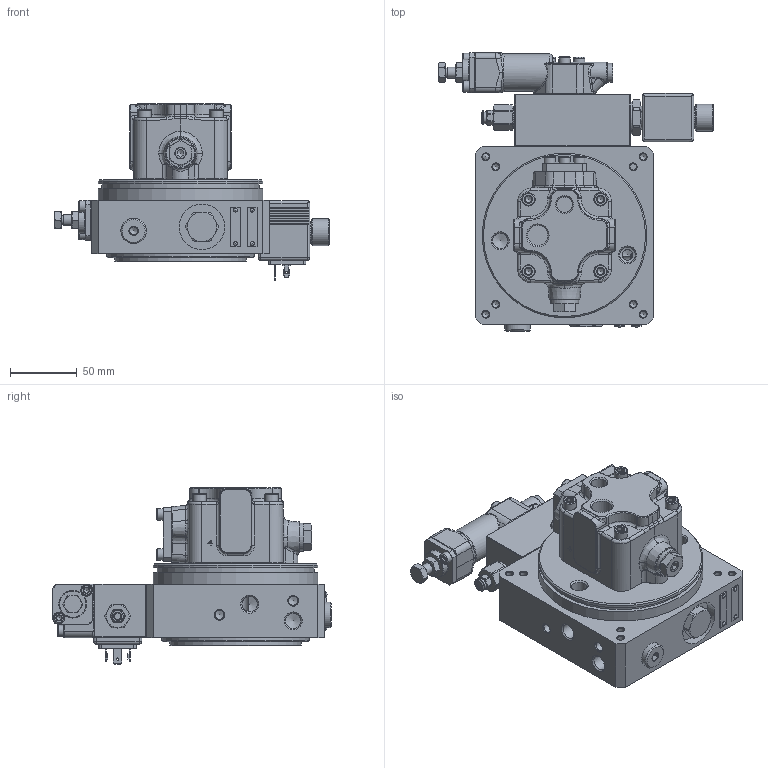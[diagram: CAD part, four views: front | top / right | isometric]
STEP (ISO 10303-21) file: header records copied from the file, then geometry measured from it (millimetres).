
FILE_DESCRIPTION(/* description */ (''),/* implementation_level */ '2;1');
FILE_NAME(/* name */ 'C04 A-D.stp',/* time_stamp */ '2022-11-15T10:57:42+01:00',/* author */ ('marcop'),/* organization */ (''),/* preprocessor_version */ 'ST-DEVELOPER v19.2',/* originating_system */ 'Autodesk Inventor 2023',/* authorisation */ '');
FILE_SCHEMA (('AUTOMOTIVE_DESIGN { 1 0 10303 214 3 1 1 }'));
Products named in the file (1): C04 A-S_Semplifica_1
Bounding box: 205.15 x 208 x 132 mm (x, y, z)
Volume: 1436594.7 mm3; surface area: 161941 mm2
Topology: 3 solids, 3 shells, 1477 faces, 3636 edges, 2233 vertices
Faces by surface type: plane 687, cone 270, cylinder 262, bspline 223, torus 21, sphere 14
Full cylindrical faces by diameter (mm): 1.6 x2, 1.65 x1, 2 x3, 2.5 x1, 4.134 x3, 4.917 x9, 5 x3, 5.5 x6, 6 x4, 6.5 x5, 6.647 x6, 8 x3, 8.376 x3, 8.5 x8, 8.8 x1, 10 x5, 11.445 x5, 12 x1, 12.5 x1, 13.1 x3, 14 x4, 14.95 x1, 16 x1, 16.5 x1, 19 x3, 20 x5, 21 x1, 22 x3, 22.8 x1, 24 x1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
Entity records: 61203 total; most frequent: CARTESIAN_POINT 26842, ORIENTED_EDGE 7168, DIRECTION 6367, EDGE_CURVE 3584, AXIS2_PLACEMENT_3D 2323, VERTEX_POINT 2233, LINE 1721, VECTOR 1721
